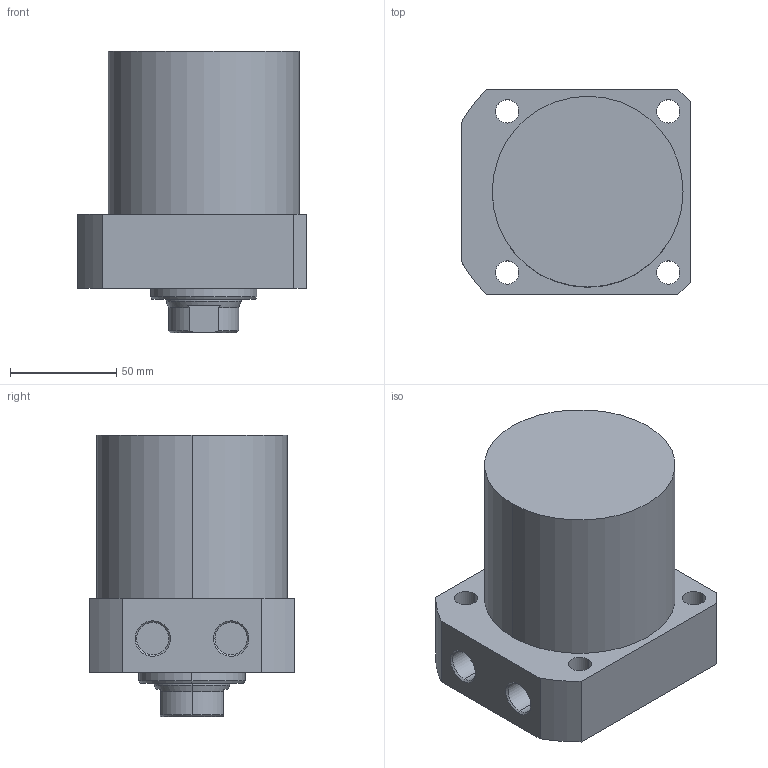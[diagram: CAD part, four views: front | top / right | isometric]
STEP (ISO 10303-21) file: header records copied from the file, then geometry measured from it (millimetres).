
FILE_DESCRIPTION (( 'STEP AP203' ), '1' );
FILE_NAME ('CLLR-090CA-055.STEP', '2019-12-19T02:18:26', ( '' ), ( '' ), 'SwSTEP 2.0', 'SolidWorks 2015', '' );
FILE_SCHEMA (( 'CONFIG_CONTROL_DESIGN' ));
Length unit declared in the file: millimetre
Products named in the file (1): CLLR-090CA-055
Bounding box: 108 x 97 x 133 mm (x, y, z)
Volume: 840116 mm3; surface area: 66833.8 mm2
Topology: 1 solids, 1 shells, 63 faces, 149 edges, 94 vertices
Faces by surface type: cylinder 29, plane 19, cone 15
Entity records: 1927 total; most frequent: DIRECTION 340, CARTESIAN_POINT 337, ORIENTED_EDGE 294, EDGE_CURVE 147, AXIS2_PLACEMENT_3D 137, VERTEX_POINT 94, EDGE_LOOP 79, CIRCLE 73
